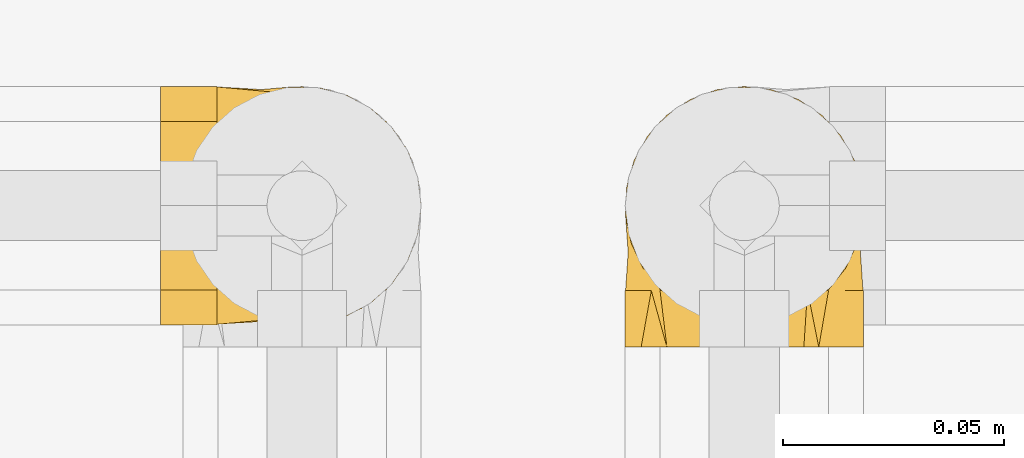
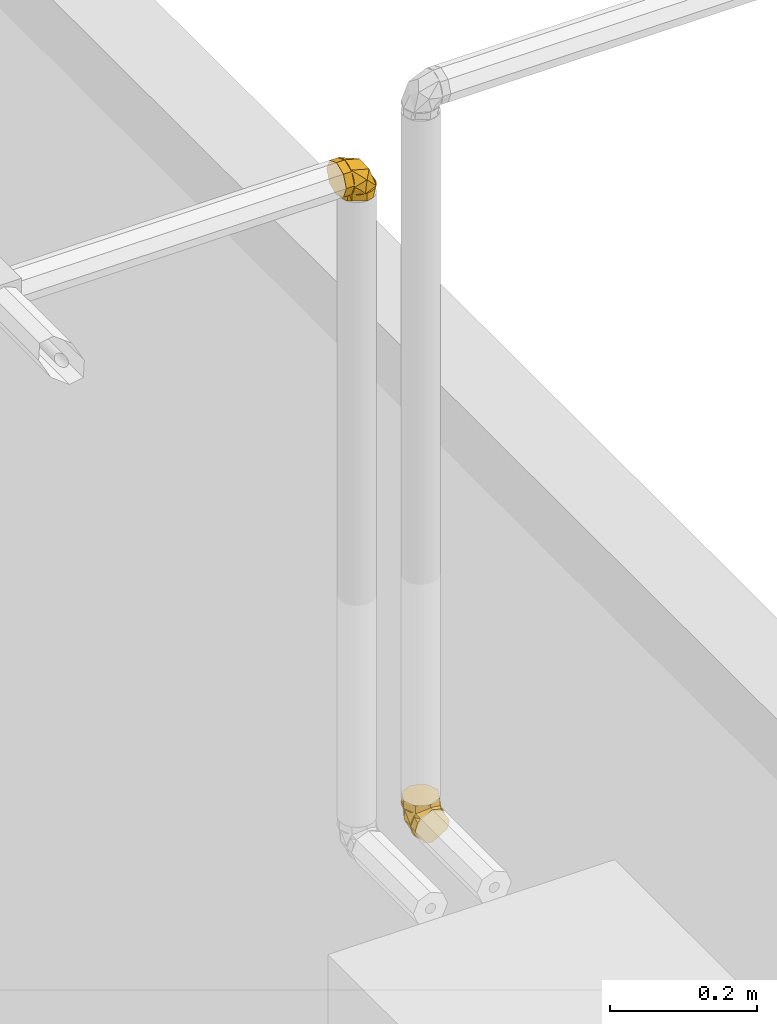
# One storey, part 393 of 652: 2 coverings.
"""IFC2X3 building model written with IfcOpenShell, lengths in millimetres."""

import ifcopenshell
import ifcopenshell.guid

model = None  # the IFC model being written
_history = None  # IfcOwnerHistory: only IFC2X3 demands one
_inside = {}  # id of a spatial element -> (the spatial element, [elements in it])
_under = {}  # id of a project, library or spatial element -> (it, [spatial elements below it])
_declared = {}  # id of a project -> (the project, [libraries it declares])
_typed = {}  # id of a type object -> (the type object, [elements of that type])
_made_of = {}  # id of a material, layer set ... -> (it, [elements and type objects made of it])


def new_model(schema):
    """Start an empty IFC model of exactly this schema.

    Asked for "IFC4X3", IfcOpenShell would pick the latest addendum, in which some entities
    have other attributes; the version numbers below select the first issue.
    IFC2X3 requires an IfcOwnerHistory on every rooted entity: one is made here for all.
    """
    global model, _history
    if schema == "IFC4X3":
        model = ifcopenshell.file(schema_version=(4, 3, 0, 0))
    else:
        model = ifcopenshell.file(schema=schema)
    _inside.clear()
    _under.clear()
    _declared.clear()
    _typed.clear()
    _made_of.clear()
    _history = None
    if model.schema == "IFC2X3":
        org = make("IfcOrganization", Name="unknown")
        user = make(
            "IfcPersonAndOrganization",
            ThePerson=make("IfcPerson", FamilyName="unknown"),
            TheOrganization=org,
        )
        app = make(
            "IfcApplication",
            ApplicationDeveloper=org,
            Version="unknown",
            ApplicationFullName="unknown",
            ApplicationIdentifier="unknown",
        )
        _history = make(
            "IfcOwnerHistory",
            OwningUser=user,
            OwningApplication=app,
            ChangeAction="ADDED",
            CreationDate=0,
        )
    return model


def make(cls, **values):
    """One entity of the class cls with the attributes given. An attribute that is None is left unset."""
    return model.create_entity(
        cls, **{name: value for name, value in values.items() if value is not None}
    )


def entity(cls, *values):
    """Any entity or typed value of the class cls, its attributes in the order of the schema. None: left unset."""
    e = model.create_entity(cls)
    for i, value in enumerate(values):
        if value is not None:
            e[i] = value
    return e


def rooted(cls, **values):
    """An entity with a GlobalId (a new one), such as an element, a storey or a relation."""
    return make(cls, GlobalId=ifcopenshell.guid.new(), OwnerHistory=_history, **values)


def si_unit(unit_type, name, prefix=None):
    """IfcSIUnit, for example si_unit("LENGTHUNIT", "METRE", prefix="MILLI")."""
    return make("IfcSIUnit", UnitType=unit_type, Prefix=prefix, Name=name)


def converted_unit(unit_type, name, factor, base, dimensions=None, offset=None):
    """IfcConversionBasedUnit, such as the inch: factor (a typed value) times the base unit."""
    return make(
        "IfcConversionBasedUnit"
        if offset is None
        else "IfcConversionBasedUnitWithOffset",
        ConversionOffset=offset,
        Dimensions=None
        if dimensions is None
        else entity("IfcDimensionalExponents", *dimensions),
        UnitType=unit_type,
        Name=name,
        ConversionFactor=make(
            "IfcMeasureWithUnit", ValueComponent=factor, UnitComponent=base
        ),
    )


def assignment(units):
    """IfcUnitAssignment: the units of a project."""
    return None if units is None else make("IfcUnitAssignment", Units=units)


def point(xyz):
    """IfcCartesianPoint."""
    return None if xyz is None else make("IfcCartesianPoint", Coordinates=xyz)


def direction(xyz):
    """IfcDirection."""
    return None if xyz is None else make("IfcDirection", DirectionRatios=xyz)


def frame(location, z_axis=None, x_axis=None):
    """IfcAxis2Placement3D, a coordinate frame: its origin and axes. An axis left out is left unset."""
    return make(
        "IfcAxis2Placement3D",
        Location=point(location),
        Axis=direction(z_axis),
        RefDirection=direction(x_axis),
    )


def origin():
    """The frame at (0, 0, 0) with its axes left unset."""
    return frame((0.0, 0.0, 0.0))


def place(relative_to, where):
    """IfcLocalPlacement: puts the frame where relative to a parent placement (None: the world)."""
    return make(
        "IfcLocalPlacement", PlacementRelTo=relative_to, RelativePlacement=where
    )


def context(
    kind, dimensions, precision=None, world=None, true_north=None, identifier=None
):
    """IfcGeometricRepresentationContext, for example the 3D "Model" context."""
    return make(
        "IfcGeometricRepresentationContext",
        ContextIdentifier=identifier,
        ContextType=kind,
        CoordinateSpaceDimension=dimensions,
        Precision=precision,
        WorldCoordinateSystem=world,
        TrueNorth=true_north,
    )


def subcontext(parent, identifier, kind, view, scale=None):
    """IfcGeometricRepresentationSubContext, for example "Body" below "Model"."""
    return make(
        "IfcGeometricRepresentationSubContext",
        ContextIdentifier=identifier,
        ContextType=kind,
        ParentContext=parent,
        TargetScale=scale,
        TargetView=view,
    )


def project(units=None, contexts=None):
    """IfcProject with its units and contexts."""
    return rooted(
        "IfcProject",
        Name="project",
        RepresentationContexts=contexts,
        UnitsInContext=assignment(units),
    )


def spatial(cls, under=None, at=None, **own):
    """A site, building, storey or space (cls), placed at a placement, below another one or the project."""
    s = rooted(cls, ObjectPlacement=at, **own)
    if under is not None:
        _under.setdefault(under.id(), (under, []))[1].append(s)
    return s


def faces_of(points, faces, orient=None, outer=None):
    """IfcFace entities. A face is a list of loops; a loop is a list of indices into points, from 0.

    orient and outer hold one flag for each loop. By default every Orientation is true, the
    first loop of a face is its IfcFaceOuterBound and the others are IfcFaceBound.
    """
    made = []
    for i, loops in enumerate(faces):
        bounds = []
        for j, loop in enumerate(loops):
            is_outer = j == 0 if outer is None else outer[i][j]
            bounds.append(
                make(
                    "IfcFaceOuterBound" if is_outer else "IfcFaceBound",
                    Bound=make("IfcPolyLoop", Polygon=[points[k] for k in loop]),
                    Orientation=True if orient is None else orient[i][j],
                )
            )
        made.append(make("IfcFace", Bounds=bounds))
    return made


def face_set(faces, orient=None, outer=None):
    """The faces of one IfcConnectedFaceSet. surface_model builds it on its shared points."""
    return ("IfcConnectedFaceSet", faces, orient, outer)


def surface_model(cls, points, shells):
    """IfcFaceBasedSurfaceModel or IfcShellBasedSurfaceModel (cls): surfaces that need not close."""
    shared = [point(p) for p in points]
    made = [make(c, CfsFaces=faces_of(shared, fs, o, b)) for c, fs, o, b in shells]
    if cls == "IfcFaceBasedSurfaceModel":
        return make(cls, FbsmFaces=made)
    return make(cls, SbsmBoundary=made)


def shape(context_of_items, identifier, shape_type, items):
    """IfcShapeRepresentation: the items that make up one representation, for example the "Body"."""
    return make(
        "IfcShapeRepresentation",
        ContextOfItems=context_of_items,
        RepresentationIdentifier=identifier,
        RepresentationType=shape_type,
        Items=items,
    )


def material(Name=None, Category=None):
    """IfcMaterial."""
    return make("IfcMaterial", Name=Name, Category=Category)


def made_of(thing, what):
    """Note that an element or type object is made of a material, layer set ...; save() writes the relation."""
    if what is not None:
        _made_of.setdefault(what.id(), (what, []))[1].append(thing)
    return thing


def type_object(cls, material=None, **own):
    """A type object (cls), such as IfcWallType, which elements share."""
    return made_of(rooted(cls, **own), material)


def element(
    cls,
    number,
    at=None,
    inside=None,
    cuts=None,
    type_object=None,
    material=None,
    context=None,
    identifier="Body",
    shape_type=None,
    held_by="IfcProductDefinitionShape",
    body=None,
    shapes=None,
    **own,
):
    """One element of the class cls, such as IfcWall. Its Tag is "e" and its number.

    at: its placement. inside: the storey or other place that contains it. cuts: it is an
    opening in that element (IfcRelVoidsElement). A single representation is given by context,
    identifier, shape_type and body (its items); several are given by shapes. held_by: the class
    of the entity that holds the representations. save() writes the other relations.
    """
    e = rooted(cls, Tag="e%d" % number, ObjectPlacement=at, **own)
    if body is not None:
        shapes = [shape(context, identifier, shape_type, body)]
    if shapes is not None:
        e.Representation = make(held_by, Representations=shapes)
    if inside is not None:
        _inside.setdefault(inside.id(), (inside, []))[1].append(e)
    if cuts is not None:
        rooted(
            "IfcRelVoidsElement", RelatingBuildingElement=cuts, RelatedOpeningElement=e
        )
    if type_object is not None:
        _typed.setdefault(type_object.id(), (type_object, []))[1].append(e)
    return made_of(e, material)


def aggregate(whole, parts):
    """IfcRelAggregates: a whole, such as a stair, and the parts it consists of."""
    return rooted("IfcRelAggregates", RelatingObject=whole, RelatedObjects=parts)


def save(model, path):
    """Write the relations noted so far, then the file.

    IfcRelAggregates (storeys below a building ...), IfcRelContainedInSpatialStructure (elements
    in a storey), IfcRelDefinesByType, IfcRelAssociatesMaterial and IfcRelDeclares: one each for
    every whole, place, type object, material and project.
    """
    for whole, parts in _under.values():
        aggregate(whole, parts)
    for where, things in _inside.values():
        rooted(
            "IfcRelContainedInSpatialStructure",
            RelatedElements=things,
            RelatingStructure=where,
        )
    for kind, things in _typed.values():
        rooted("IfcRelDefinesByType", RelatedObjects=things, RelatingType=kind)
    for what, things in _made_of.values():
        rooted("IfcRelAssociatesMaterial", RelatedObjects=things, RelatingMaterial=what)
    for by, libraries in _declared.values():
        rooted("IfcRelDeclares", RelatingContext=by, RelatedDefinitions=libraries)
    model.write(path)


model = new_model("IFC2X3")

# Units and contexts
model_context = context("Model", 3, precision=0.01, world=frame((0.0, 0.0, 308426.39999999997)), true_north=direction((6.123233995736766e-17, 1.0)))
plan_context = context("Plan", 3, precision=0.01, world=frame((0.0, 0.0, 308426.39999999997)), true_north=direction((6.123233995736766e-17, 1.0)))
body_context = subcontext(model_context, "Body", "Model", "MODEL_VIEW")
ifc_project = project(units=[si_unit("LENGTHUNIT", "METRE", prefix="MILLI"), si_unit("AREAUNIT", "SQUARE_METRE"), si_unit("VOLUMEUNIT", "CUBIC_METRE"), converted_unit("PLANEANGLEUNIT", "DEGREE", entity("IfcPlaneAngleMeasure", 0.017453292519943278), si_unit("PLANEANGLEUNIT", "RADIAN"), dimensions=[0, 0, 0, 0, 0, 0, 0])], contexts=[model_context, plan_context])

# Site, building, storey
site_placement = place(None, origin())
site = spatial("IfcSite", under=ifc_project, at=site_placement, Name="Default", CompositionType="ELEMENT")
building_placement = place(site_placement, origin())
building = spatial("IfcBuilding", under=site, at=building_placement, CompositionType="ELEMENT")
storey_placement = place(building_placement, frame((0.0, 0.0, 1730.6999999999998)))
storey = spatial("IfcBuildingStorey", under=building, at=storey_placement, Name="EG_Produktion_FFB", CompositionType="ELEMENT", Elevation=1730.6999999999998)

# Coverings
ifc_material = material(Name="Dämmung - Armaflex-Schlauch")
covering_type = type_object("IfcCoveringType", Name="Rohrdämmung außen:Armaflex-Schlauch", PredefinedType="INSULATION")
covering_1_placement = place(storey_placement, frame((66296.95799511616, 55422.86390995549, 2671.4672277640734)))
element("IfcCovering", 1, at=covering_1_placement, inside=storey, type_object=covering_type, material=ifc_material, Name="Rohrdämmung außen:Armaflex-Schlauch", ObjectType="Rohrdämmung außen:Armaflex-Schlauch", PredefinedType="INSULATION", context=body_context, shape_type="SurfaceModel", body=[
    surface_model("IfcFaceBasedSurfaceModel", [(47.409122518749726, 12.766249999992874, 47.750272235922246), (51.38658262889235, 17.724287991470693, 47.750272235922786), (54.09156424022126, 23.47627931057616, 47.750272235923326), (55.373456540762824, 29.70195853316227, 47.75027223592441), (55.160884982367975, 36.054685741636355, 47.75027223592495), (53.465685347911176, 42.1807471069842, 47.75027223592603), (50.382244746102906, 47.7390493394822, 47.75027223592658), (46.08224622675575, 52.420111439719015, 47.75027223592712), (40.80510963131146, 55.963296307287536, 47.75027223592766), (34.84466092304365, 58.17132276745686, 47.75027223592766), (28.532772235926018, 58.921249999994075, 47.75027223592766), (22.220883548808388, 58.17132276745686, 47.75027223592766), (16.260434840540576, 55.963296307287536, 47.75027223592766), (10.983298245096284, 52.420111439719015, 47.75027223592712), (6.6832997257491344, 47.7390493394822, 47.75027223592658), (3.5998591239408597, 42.1807471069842, 47.75027223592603), (1.904659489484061, 36.054685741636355, 47.75027223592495), (1.6920879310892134, 29.70195853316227, 47.75027223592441), (2.973980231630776, 23.47627931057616, 47.750272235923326), (5.678961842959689, 17.724287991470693, 47.750272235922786), (9.656421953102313, 12.766249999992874, 47.750272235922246), (5.678961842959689, 12.766249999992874, 42.79223424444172), (2.973980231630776, 12.766249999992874, 37.04024292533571), (1.6920879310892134, 12.766249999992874, 30.81456370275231), (1.904659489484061, 12.766249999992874, 24.46183649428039), (3.5998591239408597, 12.766249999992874, 18.33577512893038), (6.6832997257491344, 12.766249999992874, 12.777472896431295), (10.983298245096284, 12.766250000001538, 8.096410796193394), (16.260434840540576, 12.766250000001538, 4.553225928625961), (22.220883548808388, 12.766250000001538, 2.3451994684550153), (28.532772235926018, 12.766250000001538, 1.5952722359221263), (34.84466092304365, 12.766250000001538, 2.3451994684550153), (40.80510963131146, 12.766250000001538, 4.553225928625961), (46.08224622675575, 12.766250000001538, 8.096410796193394), (50.382244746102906, 12.766249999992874, 12.777472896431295), (53.465685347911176, 12.766249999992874, 18.33577512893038), (55.160884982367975, 12.766249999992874, 24.46183649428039), (55.373456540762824, 12.766249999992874, 30.81456370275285), (54.09156424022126, 12.766249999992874, 37.04024292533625), (51.38658262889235, 12.766249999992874, 42.79223424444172), (54.78731738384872, 21.444854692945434, 37.807400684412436), (28.533105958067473, 52.73596797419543, 24.672737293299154), (53.46646777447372, 33.56504512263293, 26.95108659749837), (50.727100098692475, 41.06226191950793, 47.75039842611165), (28.533105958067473, 31.030316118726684, 12.139781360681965), (42.77874804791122, 41.84360957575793, 17.33248765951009), (50.727100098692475, 12.766314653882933, 19.455613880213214), (14.287463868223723, 41.84360957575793, 17.33248765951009), (3.599744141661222, 33.56504512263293, 26.95108659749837), (2.274243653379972, 21.444854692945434, 37.807400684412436), (6.339111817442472, 12.766314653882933, 19.455613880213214), (6.339111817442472, 41.06226191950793, 47.75039842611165), (42.818538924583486, 53.00389168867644, 60.51652223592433), (38.056616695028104, 54.97634445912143, 60.51652223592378), (33.29469446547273, 56.948797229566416, 60.5165222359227), (28.532772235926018, 58.921250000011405, 60.5165222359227), (23.770850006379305, 56.94879722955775, 60.51652223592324), (19.00892777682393, 54.97634445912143, 60.51652223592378), (14.247005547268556, 53.00389168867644, 60.51652223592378), (9.48508331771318, 51.03143891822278, 60.51652223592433), (7.512630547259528, 46.26951668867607, 60.51652223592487), (5.540177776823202, 41.507594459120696, 60.51652223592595), (3.567725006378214, 36.74567222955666, 60.51652223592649), (1.5952722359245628, 31.983750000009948, 60.516522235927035), (3.567725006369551, 27.22182777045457, 60.516522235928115), (5.540177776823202, 22.459905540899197, 60.516522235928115), (7.512630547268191, 17.697983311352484, 60.516522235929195), (9.48508331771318, 12.936061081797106, 60.51652223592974), (14.247005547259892, 10.963608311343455, 60.51652223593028), (19.00892777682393, 8.991155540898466, 60.51652223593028), (23.770850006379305, 7.018702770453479, 60.51652223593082), (28.532772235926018, 5.046250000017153, 60.51652223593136), (33.29469446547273, 7.018702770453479, 60.51652223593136), (38.056616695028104, 8.991155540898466, 60.51652223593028), (42.81853892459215, 10.963608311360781, 60.51652223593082), (47.58046115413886, 12.936061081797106, 60.51652223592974), (49.55291392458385, 17.69798331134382, 60.516522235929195), (51.525366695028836, 22.459905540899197, 60.516522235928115), (53.497819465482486, 27.22182777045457, 60.516522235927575), (55.47027223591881, 31.983750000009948, 60.516522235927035), (53.497819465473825, 36.74567222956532, 60.51652223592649), (51.525366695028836, 41.507594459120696, 60.51652223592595), (49.552913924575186, 46.26951668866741, 60.51652223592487), (47.58046115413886, 51.03143891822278, 60.51652223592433), (28.532772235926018, 58.92125000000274, 47.75027223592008), (33.29469446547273, 56.948797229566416, 47.750272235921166), (38.056616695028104, 54.97634445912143, 47.750272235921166), (42.818538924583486, 53.00389168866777, 47.750272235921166), (47.58046115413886, 51.03143891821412, 47.750272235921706), (49.96980627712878, 45.26304951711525, 47.750272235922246), (52.35915140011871, 39.49466011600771, 47.750272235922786), (55.47027223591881, 31.983750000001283, 47.75027223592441), (53.497819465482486, 27.22182777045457, 47.75027223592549), (51.525366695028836, 22.459905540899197, 47.75027223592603), (49.55291392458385, 17.69798331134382, 47.75027223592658), (47.58046115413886, 12.936061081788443, 47.75027223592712), (41.81207175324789, 10.546715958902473, 47.75027223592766), (36.04368235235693, 8.157370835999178, 47.7502722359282), (28.532772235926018, 5.046250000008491, 47.75027223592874), (23.770850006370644, 7.018702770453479, 47.75027223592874), (19.00892777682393, 8.991155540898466, 47.7502722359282), (14.247005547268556, 10.963608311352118, 47.75027223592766), (9.48508331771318, 12.936061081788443, 47.75027223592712), (7.095738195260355, 18.704450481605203, 47.75027223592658), (4.706393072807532, 24.472839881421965, 47.75027223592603), (1.5952722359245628, 31.983750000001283, 47.75027223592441), (3.567725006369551, 36.74567222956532, 47.75027223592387), (5.540177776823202, 41.507594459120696, 47.750272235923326), (7.512630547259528, 46.26951668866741, 47.750272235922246), (9.48508331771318, 51.03143891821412, 47.750272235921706), (15.253472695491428, 53.42078403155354, 47.750272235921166), (21.021862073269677, 55.810129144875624, 47.750272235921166), (28.532772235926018, 0.0, 1.5952722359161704), (34.36491206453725, 0.0, 4.962459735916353), (40.197051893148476, 0.0, 8.329647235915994), (46.02919172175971, 0.0, 11.696834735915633), (51.86133155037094, 0.0, 15.064022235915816), (53.66580189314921, 0.0, 21.798397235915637), (55.470272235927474, 0.0, 28.532772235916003), (52.10308473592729, 0.0, 34.36491206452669), (48.73589723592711, 0.0, 40.19705189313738), (45.36870973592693, 0.0, 46.02919172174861), (42.00152223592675, 0.0, 51.861331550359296), (35.26714723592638, 0.0, 53.66580189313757), (28.532772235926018, 0.0, 55.470272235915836), (22.70063240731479, 0.0, 52.10308473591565), (16.86849257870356, 0.0, 48.73589723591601), (11.036352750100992, 0.0, 45.36870973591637), (5.204212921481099, 0.0, 42.00152223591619), (3.399742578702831, 0.0, 35.26714723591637), (1.5952722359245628, 0.0, 28.532772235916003), (4.962459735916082, 0.0, 22.700632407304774), (8.329647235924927, 0.0, 16.868492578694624), (11.696834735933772, 0.0, 11.036352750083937), (15.064022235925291, 0.0, 5.204212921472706), (21.798397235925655, 0.0, 3.3997425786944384), (28.532772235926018, 12.766250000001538, 1.5952722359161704), (23.770850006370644, 12.766250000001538, 3.567725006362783), (19.00892777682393, 12.766250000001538, 5.540177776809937), (14.247005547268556, 12.766249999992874, 7.512630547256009), (9.48508331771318, 12.766250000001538, 9.485083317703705), (7.512630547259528, 12.766250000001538, 14.247005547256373), (5.540177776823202, 12.766250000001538, 19.008927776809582), (3.567725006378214, 12.766250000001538, 23.770850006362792), (1.5952722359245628, 12.766250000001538, 28.532772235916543), (3.567725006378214, 12.766249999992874, 33.29469446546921), (5.540177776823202, 12.766250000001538, 38.05661669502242), (7.512630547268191, 12.766250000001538, 42.818538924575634), (9.48508331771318, 12.766250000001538, 47.58046115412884), (14.247005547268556, 12.766250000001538, 49.552913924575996), (19.00892777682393, 12.766250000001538, 51.525366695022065), (23.770850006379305, 12.766250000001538, 53.49781946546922), (28.532772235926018, 12.766250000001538, 55.470272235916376), (33.29469446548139, 12.766249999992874, 53.49781946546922), (38.056616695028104, 12.766250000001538, 51.525366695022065), (42.81853892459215, 12.766250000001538, 49.552913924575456), (47.58046115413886, 12.766250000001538, 47.58046115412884), (49.55291392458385, 12.766250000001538, 42.818538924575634), (51.525366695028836, 12.766250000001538, 38.05661669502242), (53.497819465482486, 12.766250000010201, 33.29469446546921), (55.470272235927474, 12.766250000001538, 28.532772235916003), (53.497819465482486, 12.766250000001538, 23.770850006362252), (51.525366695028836, 12.766250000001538, 19.008927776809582), (49.55291392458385, 12.766249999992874, 14.247005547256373), (47.58046115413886, 12.766250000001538, 9.485083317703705), (42.818538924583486, 12.766250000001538, 7.51263054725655), (38.056616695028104, 12.766250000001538, 5.540177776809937), (33.29469446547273, 12.766249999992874, 3.567725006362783)], [face_set([[[0, 1, 2, 3, 4, 5, 6, 7, 8, 9, 10, 11, 12, 13, 14, 15, 16, 17, 18, 19]], [[20, 21, 22, 23, 24, 25, 26, 27, 28, 29, 30, 31, 32, 33, 34, 35, 36, 37, 38, 39]], [[0, 40, 3]], [[10, 7, 41]], [[37, 42, 40]], [[42, 7, 43]], [[37, 40, 0]], [[3, 40, 42]], [[44, 41, 45]], [[7, 45, 41]], [[33, 30, 44]], [[44, 45, 33]], [[42, 33, 45]], [[42, 37, 46]], [[7, 42, 45]], [[43, 3, 42]], [[46, 33, 42]], [[13, 10, 41]], [[27, 47, 44]], [[44, 30, 27]], [[48, 47, 27]], [[49, 48, 23]], [[48, 50, 23]], [[44, 47, 41]], [[20, 49, 23]], [[47, 48, 13]], [[17, 49, 20]], [[41, 47, 13]], [[48, 17, 51]], [[48, 27, 50]], [[17, 48, 49]], [[51, 13, 48]]]), face_set([[[52, 53, 54, 55, 56, 57, 58, 59, 60, 61, 62, 63, 64, 65, 66, 67, 68, 69, 70, 71, 72, 73, 74, 75, 76, 77, 78, 79, 80, 81, 82, 83]], [[84, 85, 86, 87, 88, 89, 90, 91, 92, 93, 94, 95, 96, 97, 98, 99, 100, 101, 102, 103, 104, 105, 106, 107, 108, 109, 110, 111]], [[111, 110, 109, 59, 58, 57, 56, 55, 84]], [[59, 109, 108, 107, 106, 105, 63, 62, 61, 60]], [[104, 103, 102, 67, 66, 65, 64, 63, 105]], [[67, 102, 101, 100, 99, 98, 71, 70, 69, 68]], [[97, 96, 95, 75, 74, 73, 72, 71, 98]], [[75, 95, 94, 93, 92, 91, 79, 78, 77, 76]], [[90, 89, 88, 83, 82, 81, 80, 79, 91]], [[83, 88, 87, 86, 85, 84, 55, 54, 53, 52]]]), face_set([[[112, 113, 114, 115, 116, 117, 118, 119, 120, 121, 122, 123, 124, 125, 126, 127, 128, 129, 130, 131, 132, 133, 134, 135]], [[136, 137, 138, 139, 140, 141, 142, 143, 144, 145, 146, 147, 148, 149, 150, 151, 152, 153, 154, 155, 156, 157, 158, 159, 160, 161, 162, 163, 164, 165, 166, 167]], [[155, 121, 156]], [[118, 159, 119]], [[159, 158, 119]], [[123, 154, 153]], [[153, 152, 124]], [[121, 155, 122]], [[120, 158, 157]], [[118, 160, 159]], [[158, 120, 119]], [[124, 123, 153]], [[157, 156, 121]], [[155, 154, 122]], [[123, 122, 154]], [[120, 157, 121]], [[163, 115, 164]], [[112, 167, 113]], [[167, 166, 113]], [[117, 162, 161]], [[161, 160, 118]], [[115, 163, 116]], [[114, 166, 165]], [[112, 136, 167]], [[166, 114, 113]], [[118, 117, 161]], [[165, 164, 115]], [[163, 162, 116]], [[117, 116, 162]], [[114, 165, 115]], [[139, 133, 140]], [[130, 143, 131]], [[143, 142, 131]], [[135, 138, 137]], [[137, 136, 112]], [[133, 139, 134]], [[132, 142, 141]], [[130, 144, 143]], [[142, 132, 131]], [[112, 135, 137]], [[141, 140, 133]], [[139, 138, 134]], [[135, 134, 138]], [[132, 141, 133]], [[147, 127, 148]], [[124, 151, 125]], [[151, 150, 125]], [[129, 146, 145]], [[145, 144, 130]], [[127, 147, 128]], [[126, 150, 149]], [[124, 152, 151]], [[150, 126, 125]], [[130, 129, 145]], [[149, 148, 127]], [[147, 146, 128]], [[129, 128, 146]], [[126, 149, 127]]])]),
])
covering_2_placement = place(storey_placement, frame((66193.50701735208, 55426.31488771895, 3828.532772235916)))
element("IfcCovering", 2, at=covering_2_placement, inside=storey, type_object=covering_type, material=ifc_material, Name="Rohrdämmung außen:Armaflex-Schlauch", ObjectType="Rohrdämmung außen:Armaflex-Schlauch", PredefinedType="INSULATION", context=body_context, shape_type="SurfaceModel", body=[
    surface_model("IfcFaceBasedSurfaceModel", [(12.766250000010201, 9.65642195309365, -47.75027223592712), (12.766250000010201, 5.678961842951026, -42.79223424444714), (12.766250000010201, 2.973980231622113, -37.040242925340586), (12.766250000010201, 1.6920879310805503, -30.814563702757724), (12.766250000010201, 1.904659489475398, -24.461836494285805), (12.766250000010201, 3.599859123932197, -18.335775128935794), (12.766250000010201, 6.683299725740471, -12.77747289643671), (12.766250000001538, 10.983298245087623, -8.096410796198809), (12.766250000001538, 16.26043484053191, -4.553225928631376), (12.766250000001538, 22.220883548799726, -2.3451994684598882), (12.766250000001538, 28.532772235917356, -1.595272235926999), (12.766250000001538, 34.844660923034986, -2.3451994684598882), (12.766250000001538, 40.8051096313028, -4.553225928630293), (12.766250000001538, 46.08224622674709, -8.096410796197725), (12.766250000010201, 50.38224474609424, -12.77747289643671), (12.766250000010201, 53.465685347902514, -18.33577512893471), (12.766250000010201, 55.16088498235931, -24.461836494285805), (12.766250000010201, 55.37345654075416, -30.814563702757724), (12.766250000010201, 54.0915642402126, -37.040242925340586), (12.766250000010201, 51.38658262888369, -42.79223424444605), (12.766250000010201, 47.409122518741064, -47.75027223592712), (17.72428799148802, 51.38658262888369, -47.75027223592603), (23.476279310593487, 54.0915642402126, -47.75027223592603), (29.701958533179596, 55.37345654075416, -47.75027223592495), (36.05468574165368, 55.16088498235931, -47.75027223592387), (42.18074710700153, 53.465685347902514, -47.75027223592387), (47.73904933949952, 50.38224474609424, -47.750272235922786), (52.420111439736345, 46.08224622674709, -47.750272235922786), (55.96329630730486, 40.8051096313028, -47.750272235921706), (58.17132276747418, 34.844660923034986, -47.750272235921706), (58.921250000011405, 28.532772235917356, -47.750272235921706), (58.17132276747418, 22.220883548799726, -47.750272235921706), (55.96329630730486, 16.26043484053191, -47.750272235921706), (52.420111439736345, 10.983298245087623, -47.750272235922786), (47.73904933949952, 6.683299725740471, -47.750272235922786), (42.18074710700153, 3.599859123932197, -47.75027223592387), (36.05468574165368, 1.904659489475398, -47.75027223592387), (29.701958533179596, 1.6920879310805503, -47.75027223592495), (23.476279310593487, 2.973980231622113, -47.75027223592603), (17.72428799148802, 5.678961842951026, -47.75027223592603), (22.70703294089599, 2.2785571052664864, -39.06971681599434), (35.84576585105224, 28.532768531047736, -7.778603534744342), (12.768104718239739, 6.338774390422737, -19.455216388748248), (33.56683518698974, 3.5994067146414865, -26.951270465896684), (43.18485276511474, 14.287126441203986, -18.67503145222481), (48.37523362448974, 28.532768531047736, -29.486580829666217), (41.05940110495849, 6.338774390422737, -47.750000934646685), (43.18485276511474, 42.778410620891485, -18.67503145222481), (33.56683518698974, 53.46613034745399, -26.951270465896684), (22.70703294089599, 54.786979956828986, -39.06971681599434), (41.05940110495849, 50.72676267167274, -47.750000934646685), (12.768104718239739, 50.72676267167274, -19.455216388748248), (0.0, 28.532772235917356, -1.5952722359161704), (0.0, 33.29469446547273, -3.567725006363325), (0.0, 38.05661669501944, -5.540177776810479), (0.0, 42.81853892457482, -7.51263054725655), (0.0, 47.5804611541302, -9.485083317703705), (0.0, 49.552913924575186, -14.247005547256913), (0.0, 51.525366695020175, -19.008927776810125), (0.0, 53.497819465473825, -23.770850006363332), (0.0, 55.47027223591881, -28.532772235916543), (0.0, 53.49781946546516, -33.29469446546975), (0.0, 51.525366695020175, -38.05661669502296), (0.0, 49.552913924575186, -42.818538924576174), (0.0, 47.5804611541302, -47.58046115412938), (0.0, 42.81853892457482, -49.552913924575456), (0.0, 38.05661669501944, -51.52536669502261), (0.0, 33.29469446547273, -53.49781946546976), (0.0, 28.532772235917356, -55.470272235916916), (0.0, 23.77085000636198, -53.49781946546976), (0.0, 19.008927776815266, -51.52536669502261), (0.0, 14.247005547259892, -49.552913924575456), (0.0, 9.485083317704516, -47.58046115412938), (0.0, 7.512630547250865, -42.818538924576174), (0.0, 5.54017777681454, -38.05661669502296), (0.0, 3.567725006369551, -33.29469446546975), (0.0, 1.5952722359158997, -28.532772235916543), (0.0, 3.567725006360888, -23.770850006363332), (0.0, 5.54017777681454, -19.008927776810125), (0.0, 7.512630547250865, -14.247005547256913), (0.0, 9.485083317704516, -9.485083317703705), (0.0, 14.247005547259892, -7.51263054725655), (0.0, 19.008927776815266, -5.540177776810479), (0.0, 23.770850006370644, -3.567725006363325), (12.766250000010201, 28.532772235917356, -1.5952722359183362), (12.766250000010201, 23.77085000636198, -3.567725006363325), (12.766250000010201, 19.008927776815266, -5.540177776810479), (12.766250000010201, 14.247005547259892, -7.512630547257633), (12.766250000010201, 9.485083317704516, -9.48508331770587), (12.766250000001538, 7.095738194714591, -15.25347271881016), (12.766250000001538, 4.706393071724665, -21.021862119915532), (12.766250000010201, 1.5952722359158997, -28.53277223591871), (12.766250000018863, 3.567725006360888, -33.29469446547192), (12.766250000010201, 5.54017777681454, -38.05661669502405), (12.766250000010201, 7.512630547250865, -42.818538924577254), (12.766250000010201, 9.485083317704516, -47.58046115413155), (12.766250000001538, 15.253472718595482, -49.96980627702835), (12.766250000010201, 21.021862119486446, -52.35915139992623), (12.766250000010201, 28.532772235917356, -55.47027223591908), (12.766250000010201, 33.29469446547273, -53.49781946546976), (12.766250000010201, 38.05661669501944, -51.52536669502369), (12.766250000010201, 42.81853892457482, -49.552913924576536), (12.766250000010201, 47.5804611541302, -47.58046115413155), (12.766250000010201, 49.96980627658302, -41.81207175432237), (12.766250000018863, 52.359151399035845, -36.04368235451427), (12.766250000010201, 55.47027223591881, -28.53277223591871), (12.766250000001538, 53.497819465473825, -23.7708500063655), (12.766250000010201, 51.525366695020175, -19.008927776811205), (12.766250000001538, 49.552913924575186, -14.247005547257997), (12.766250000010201, 47.5804611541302, -9.48508331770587), (12.766250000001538, 41.81207177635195, -7.09573820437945), (12.766250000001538, 36.0436823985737, -4.7063930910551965), (58.921250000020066, 28.532772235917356, -60.51652223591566), (55.55406250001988, 22.700632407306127, -60.51652223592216), (52.186875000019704, 16.868492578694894, -60.51652223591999), (48.81968750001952, 11.036352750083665, -60.516522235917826), (45.452500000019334, 5.204212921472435, -60.51652223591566), (38.71812500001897, 3.3997425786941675, -60.51652223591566), (31.98375000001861, 1.5952722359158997, -60.51652223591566), (26.151610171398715, 4.962459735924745, -60.51652223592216), (20.319470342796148, 8.329647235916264, -60.51652223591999), (14.487330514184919, 11.696834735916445, -60.516522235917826), (8.65519068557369, 15.064022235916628, -60.51652223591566), (6.850720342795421, 21.79839723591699, -60.51652223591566), (5.046250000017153, 28.532772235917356, -60.51652223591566), (8.413437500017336, 34.36491206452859, -60.51652223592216), (11.780625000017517, 40.197051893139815, -60.51652223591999), (15.1478125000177, 46.02919172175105, -60.516522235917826), (18.51500000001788, 51.86133155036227, -60.51652223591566), (25.249375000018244, 53.66580189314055, -60.51652223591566), (31.98375000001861, 55.47027223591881, -60.51652223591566), (37.81588982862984, 52.10308473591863, -60.51652223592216), (43.64802965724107, 48.73589723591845, -60.51652223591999), (49.48016948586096, 45.36870973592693, -60.516522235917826), (55.312309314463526, 42.00152223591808, -60.51652223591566), (57.1167796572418, 35.26714723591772, -60.51652223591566), (58.921250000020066, 28.532772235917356, -47.75027223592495), (56.94879722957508, 33.29469446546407, -47.75027223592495), (54.97634445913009, 38.05661669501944, -47.75027223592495), (53.00389168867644, 42.81853892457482, -47.75027223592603), (51.03143891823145, 47.5804611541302, -47.75027223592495), (46.26951668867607, 49.552913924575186, -47.75027223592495), (41.50759445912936, 51.525366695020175, -47.75027223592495), (36.745672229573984, 53.497819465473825, -47.75027223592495), (31.98375000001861, 55.47027223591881, -47.75027223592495), (27.221827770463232, 53.49781946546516, -47.75027223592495), (22.459905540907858, 51.525366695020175, -47.75027223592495), (17.697983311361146, 49.55291392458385, -47.75027223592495), (12.93606108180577, 47.5804611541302, -47.75027223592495), (10.963608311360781, 42.81853892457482, -47.75027223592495), (8.99115554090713, 38.05661669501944, -47.75027223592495), (7.018702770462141, 33.29469446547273, -47.75027223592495), (5.046250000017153, 28.532772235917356, -47.75027223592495), (7.018702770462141, 23.77085000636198, -47.75027223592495), (8.99115554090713, 19.008927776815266, -47.75027223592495), (10.963608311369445, 14.247005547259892, -47.75027223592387), (12.93606108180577, 9.485083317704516, -47.75027223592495), (17.697983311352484, 7.512630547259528, -47.75027223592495), (22.459905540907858, 5.54017777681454, -47.75027223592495), (27.221827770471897, 3.567725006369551, -47.75027223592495), (31.98375000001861, 1.5952722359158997, -47.75027223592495), (36.745672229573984, 3.567725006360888, -47.75027223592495), (41.50759445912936, 5.54017777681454, -47.75027223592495), (46.26951668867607, 7.512630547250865, -47.75027223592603), (51.03143891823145, 9.485083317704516, -47.75027223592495), (53.0038916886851, 14.247005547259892, -47.75027223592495), (54.97634445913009, 19.008927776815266, -47.75027223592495), (56.948797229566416, 23.770850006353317, -47.75027223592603)], [face_set([[[0, 1, 2, 3, 4, 5, 6, 7, 8, 9, 10, 11, 12, 13, 14, 15, 16, 17, 18, 19]], [[20, 21, 22, 23, 24, 25, 26, 27, 28, 29, 30, 31, 32, 33, 34, 35, 36, 37, 38, 39]], [[0, 40, 3]], [[10, 7, 41]], [[42, 3, 43]], [[40, 43, 3]], [[37, 40, 0]], [[7, 43, 44]], [[45, 41, 44]], [[7, 44, 41]], [[33, 30, 45]], [[45, 44, 33]], [[43, 33, 44]], [[43, 37, 46]], [[43, 7, 42]], [[37, 43, 40]], [[46, 33, 43]], [[13, 10, 41]], [[27, 47, 45]], [[45, 30, 27]], [[48, 47, 27]], [[49, 48, 23]], [[48, 50, 23]], [[45, 47, 41]], [[20, 49, 23]], [[47, 48, 13]], [[17, 49, 20]], [[41, 47, 13]], [[48, 17, 51]], [[48, 27, 50]], [[17, 48, 49]], [[51, 13, 48]]]), face_set([[[52, 53, 54, 55, 56, 57, 58, 59, 60, 61, 62, 63, 64, 65, 66, 67, 68, 69, 70, 71, 72, 73, 74, 75, 76, 77, 78, 79, 80, 81, 82, 83]], [[84, 85, 86, 87, 88, 89, 90, 91, 92, 93, 94, 95, 96, 97, 98, 99, 100, 101, 102, 103, 104, 105, 106, 107, 108, 109, 110, 111]], [[111, 110, 109, 56, 55, 54, 53, 52, 84]], [[56, 109, 108, 107, 106, 105, 60, 59, 58, 57]], [[104, 103, 102, 64, 63, 62, 61, 60, 105]], [[64, 102, 101, 100, 99, 98, 68, 67, 66, 65]], [[97, 96, 95, 72, 71, 70, 69, 68, 98]], [[72, 95, 94, 93, 92, 91, 76, 75, 74, 73]], [[90, 89, 88, 80, 79, 78, 77, 76, 91]], [[80, 88, 87, 86, 85, 84, 52, 83, 82, 81]]]), face_set([[[112, 113, 114, 115, 116, 117, 118, 119, 120, 121, 122, 123, 124, 125, 126, 127, 128, 129, 130, 131, 132, 133, 134, 135]], [[136, 137, 138, 139, 140, 141, 142, 143, 144, 145, 146, 147, 148, 149, 150, 151, 152, 153, 154, 155, 156, 157, 158, 159, 160, 161, 162, 163, 164, 165, 166, 167]], [[155, 121, 156]], [[118, 159, 119]], [[159, 158, 119]], [[123, 154, 153]], [[153, 152, 124]], [[121, 155, 122]], [[120, 158, 157]], [[118, 160, 159]], [[158, 120, 119]], [[124, 123, 153]], [[157, 156, 121]], [[155, 154, 122]], [[123, 122, 154]], [[120, 157, 121]], [[163, 115, 164]], [[112, 167, 113]], [[167, 166, 113]], [[117, 162, 161]], [[161, 160, 118]], [[115, 163, 116]], [[114, 166, 165]], [[112, 136, 167]], [[166, 114, 113]], [[118, 117, 161]], [[165, 164, 115]], [[163, 162, 116]], [[117, 116, 162]], [[114, 165, 115]], [[139, 133, 140]], [[130, 143, 131]], [[143, 142, 131]], [[135, 138, 137]], [[137, 136, 112]], [[133, 139, 134]], [[132, 142, 141]], [[130, 144, 143]], [[142, 132, 131]], [[112, 135, 137]], [[141, 140, 133]], [[139, 138, 134]], [[135, 134, 138]], [[132, 141, 133]], [[147, 127, 148]], [[124, 151, 125]], [[151, 150, 125]], [[129, 146, 145]], [[145, 144, 130]], [[127, 147, 128]], [[126, 150, 149]], [[124, 152, 151]], [[150, 126, 125]], [[130, 129, 145]], [[149, 148, 127]], [[147, 146, 128]], [[129, 128, 146]], [[126, 149, 127]]])]),
])

save(model, "model.ifc")
